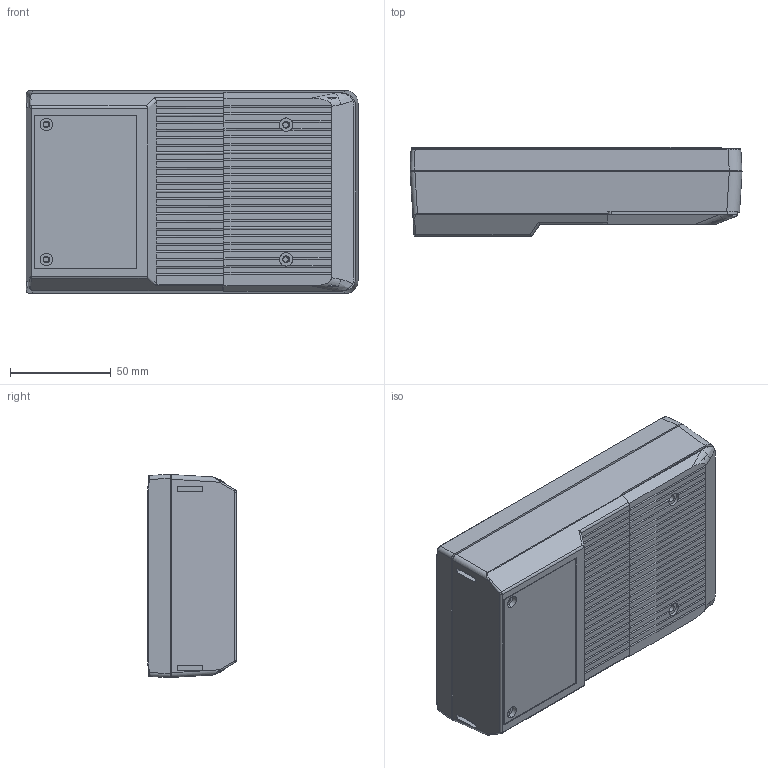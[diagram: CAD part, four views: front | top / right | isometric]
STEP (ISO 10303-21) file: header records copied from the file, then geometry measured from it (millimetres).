
FILE_DESCRIPTION (( 'STEP AP214' ), '1' );
FILE_NAME ('ME-40.STEP', '2021-01-14T15:48:47', ( '' ), ( '' ), 'SwSTEP 2.0', 'SolidWorks 2016', '' );
FILE_SCHEMA (( 'AUTOMOTIVE_DESIGN' ));
Length unit declared in the file: inch
Products named in the file (4): ME-40; ME-bottom; ME-door; ME-40-top
Assembly tree (3 placements, depth 2):
  ME-40
    ME-bottom
    ME-40-top
    ME-door
Bounding box: 165.18 x 44.13 x 101.13 mm (x, y, z)
Volume: 165088.8 mm3; surface area: 133743.3 mm2
Topology: 3 solids, 3 shells, 1519 faces, 4037 edges, 2671 vertices
Faces by surface type: plane 718, bspline 520, cylinder 216, cone 62, sphere 3
Entity records: 69873 total; most frequent: CARTESIAN_POINT 35150, ORIENTED_EDGE 8068, DIRECTION 5394, EDGE_CURVE 4034, VERTEX_POINT 2671, LINE 2388, VECTOR 2388, EDGE_LOOP 1697
